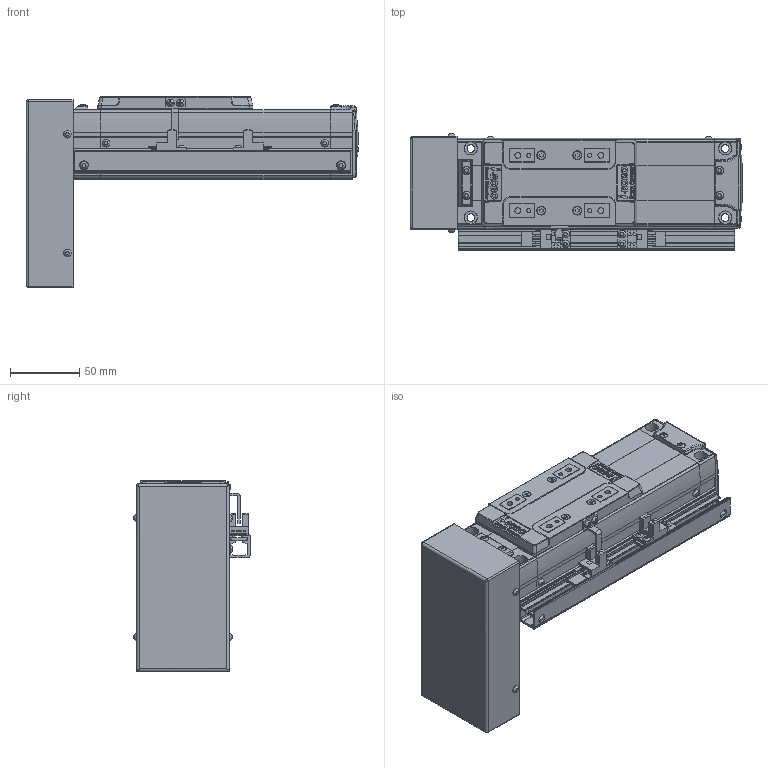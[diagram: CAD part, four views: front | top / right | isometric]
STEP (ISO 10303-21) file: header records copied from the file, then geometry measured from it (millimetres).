
FILE_DESCRIPTION(('STEP AP214'),'1');
FILE_NAME('Z:/Web/3D/SAN65/STP/SAN65ㅁㅁ-050PB+2SR.stp','2012-06-14T00:13:34',(' '),(' '),'Spatial InterOp 3D',' ',' ');
FILE_SCHEMA(('automotive_design'));
Length unit declared in the file: metre
Products named in the file (52): SAN65__-050; BODY-SAN65; REAR-SAN65; RRCV-SAN65; 스크루 : Round - M3.0 x 6.0; FRONT-SAN65; SHAFT-SAN65; RN8 x 0.75; SSFX-SAN65; SLIDE-SAN65; SLCV-SAN65; 스크루 : Countersunk - M3.0 x 6.0; ____200; PB; BTCV-SAN65; M3.0 x 6.0; 2SR; SRL-16x17-450L; - OT; EE-SX674; SBK-SX674-352; + OT; DOG; SDG-SAN65; 스크루 : Round - M3.0 x 5.0
Assembly tree (51 placements, depth 4):
  ____200
    SAN65__-050
      BODY-SAN65
      REAR-SAN65
        REAR-SAN65
        RRCV-SAN65
        스크루 : Round - M3.0 x 6.0
        스크루 : Round - M3.0 x 6.0
        스크루 : Round - M3.0 x 6.0
        스크루 : Round - M3.0 x 6.0
        스크루 : Round - M3.0 x 6.0
        스크루 : Round - M3.0 x 6.0
      FRONT-SAN65
        FRONT-SAN65
        SHAFT-SAN65
        RN8 x 0.75
        SSFX-SAN65
        스크루 : Round - M3.0 x 6.0
        스크루 : Round - M3.0 x 6.0
        스크루 : Round - M3.0 x 6.0
        스크루 : Round - M3.0 x 6.0
      SLIDE-SAN65
        SLIDE-SAN65
        SLCV-SAN65
        스크루 : Countersunk - M3.0 x 6.0
        스크루 : Countersunk - M3.0 x 6.0
        스크루 : Countersunk - M3.0 x 6.0
        스크루 : Countersunk - M3.0 x 6.0
    PB
      BTCV-SAN65
      M3.0 x 6.0
      M3.0 x 6.0
      M3.0 x 6.0
      M3.0 x 6.0
    2SR
      SRL-16x17-450L
      스크루 : Round - M3.0 x 6.0
      스크루 : Round - M3.0 x 6.0
      - OT
        EE-SX674
        SBK-SX674-352
        스크루 : Round - M3.0 x 6.0
        스크루 : Round - M3.0 x 6.0
      + OT
        EE-SX674
        SBK-SX674-352
        스크루 : Round - M3.0 x 6.0
        스크루 : Round - M3.0 x 6.0
      DOG
        SDG-SAN65
        스크루 : Round - M3.0 x 5.0
        스크루 : Round - M3.0 x 5.0
Bounding box: 240.15 x 84.06 x 138.5 mm (x, y, z)
Volume: 1001019 mm3; surface area: 184149.6 mm2
Topology: 42 solids, 42 shells, 1822 faces, 4658 edges, 3038 vertices
Faces by surface type: plane 1203, cylinder 460, cone 77, sphere 34, bspline 30, torus 15, extrusion 3
Full cylindrical faces by diameter (mm): 0.571 x2, 0.706 x1, 1.727 x2, 2.132 x1, 2.2 x4, 2.5 x13, 2.528 x4, 3 x6, 3.121 x2, 3.3 x4, 3.4 x8, 3.5 x12, 4.2 x14, 4.849 x4, 5 x3, 5.5 x4, 5.987 x2, 6 x6, 6.35 x1, 6.5 x2, 7 x1, 8 x4, 9.5 x4, 13 x1, 15 x1, 19 x1, 26 x1, 38.1 x1
Entity records: 73934 total; most frequent: CARTESIAN_POINT 14336, DIRECTION 9171, ORIENTED_EDGE 8744, EDGE_CURVE 4372, VECTOR 3069, LINE 3066, AXIS2_PLACEMENT_3D 3051, VERTEX_POINT 2976
